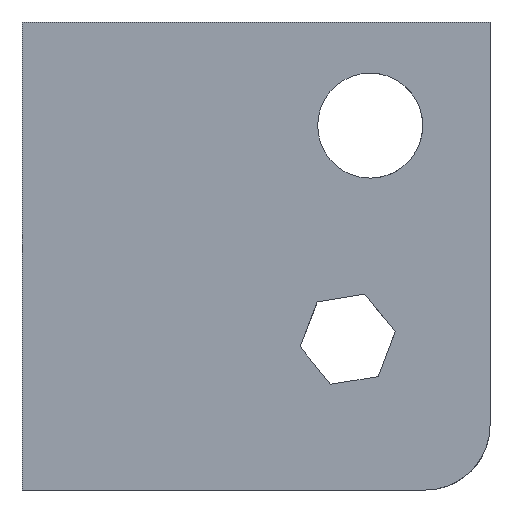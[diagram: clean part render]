
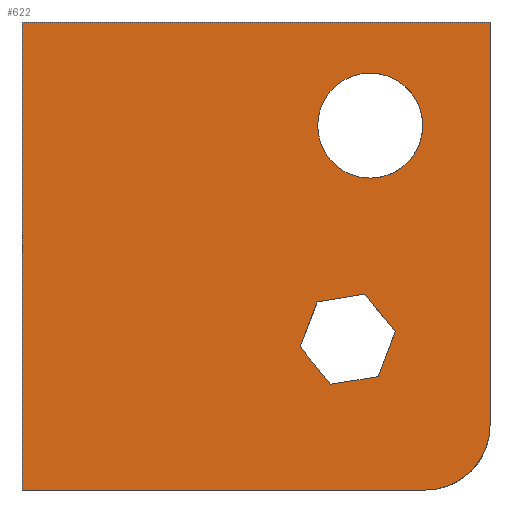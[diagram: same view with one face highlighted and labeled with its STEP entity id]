
A CAD part, left-side view. The second image highlights one B-rep face of the part: STEP entity #622.
In plain terms, the highlighted planar face has unit normal (-1, 0, 0).
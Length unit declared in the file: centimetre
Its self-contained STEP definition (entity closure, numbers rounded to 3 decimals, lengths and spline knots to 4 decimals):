
#11 = EDGE_CURVE ( 'NONE', #559, #451, #1103, .T. ) ;
#19 = CARTESIAN_POINT ( 'NONE',  ( 0., 138.3274, 138.3274 ) ) ;
#37 = DIRECTION ( 'NONE',  ( -1., 0., 0. ) ) ;
#71 = CARTESIAN_POINT ( 'NONE',  ( 0., 368.9695, 401.9783 ) ) ;
#72 = ORIENTED_EDGE ( 'NONE', *, *, #1035, .F. ) ;
#79 = ORIENTED_EDGE ( 'NONE', *, *, #208, .F. ) ;
#81 = DIRECTION ( 'NONE',  ( 1., 0., 0. ) ) ;
#102 = VECTOR ( 'NONE', #548, 100. ) ;
#103 = DIRECTION ( 'NONE',  ( 0., 0.355, -0.935 ) ) ;
#115 = CARTESIAN_POINT ( 'NONE',  ( 0., 340.4754, 225.9353 ) ) ;
#124 = AXIS2_PLACEMENT_3D ( 'NONE', #381, #182, #464 ) ;
#158 = VERTEX_POINT ( 'NONE', #428 ) ;
#162 = CARTESIAN_POINT ( 'NONE',  ( 0., 0., 138.3274 ) ) ;
#167 = EDGE_LOOP ( 'NONE', ( #311, #72, #79, #452, #1074, #666 ) ) ;
#168 = CARTESIAN_POINT ( 'NONE',  ( 0., 202.2648, 338.6335 ) ) ;
#172 = CARTESIAN_POINT ( 'NONE',  ( 0., 1000., 1000. ) ) ;
#175 = DIRECTION ( 'NONE',  ( 0., 0.632, 0.775 ) ) ;
#182 = DIRECTION ( 'NONE',  ( -1., 0., 0. ) ) ;
#183 = LINE ( 'NONE', #585, #1009 ) ;
#188 = AXIS2_PLACEMENT_3D ( 'NONE', #498, #81, #987 ) ;
#195 = DIRECTION ( 'NONE',  ( 0., -1., 0. ) ) ;
#203 = FACE_BOUND ( 'NONE', #167, .T. ) ;
#208 = EDGE_CURVE ( 'NONE', #753, #294, #682, .T. ) ;
#222 = EDGE_CURVE ( 'NONE', #1238, #1289, #569, .T. ) ;
#224 = CARTESIAN_POINT ( 'NONE',  ( 0., 202.2648, 338.6335 ) ) ;
#248 = VECTOR ( 'NONE', #598, 100. ) ;
#258 = EDGE_CURVE ( 'NONE', #158, #469, #433, .T. ) ;
#265 = VERTEX_POINT ( 'NONE', #876 ) ;
#267 = ORIENTED_EDGE ( 'NONE', *, *, #855, .F. ) ;
#294 = VERTEX_POINT ( 'NONE', #1295 ) ;
#311 = ORIENTED_EDGE ( 'NONE', *, *, #11, .F. ) ;
#319 = EDGE_LOOP ( 'NONE', ( #619, #267 ) ) ;
#321 = DIRECTION ( 'NONE',  ( -1., 0., 0. ) ) ;
#331 = VECTOR ( 'NONE', #363, 100. ) ;
#333 = CIRCLE ( 'NONE', #512, 138.3274 ) ;
#351 = EDGE_CURVE ( 'NONE', #456, #458, #1195, .T. ) ;
#363 = DIRECTION ( 'NONE',  ( 0., -0.355, 0.935 ) ) ;
#381 = CARTESIAN_POINT ( 'NONE',  ( 0., 255.9686, 778.6142 ) ) ;
#384 = DIRECTION ( 'NONE',  ( 0., 0.987, -0.16 ) ) ;
#388 = DIRECTION ( 'NONE',  ( 0., -0.987, 0.16 ) ) ;
#390 = ORIENTED_EDGE ( 'NONE', *, *, #798, .T. ) ;
#402 = CARTESIAN_POINT ( 'NONE',  ( 0., 405.5417, 305.7313 ) ) ;
#405 = ORIENTED_EDGE ( 'NONE', *, *, #587, .F. ) ;
#424 = VECTOR ( 'NONE', #103, 100. ) ;
#428 = CARTESIAN_POINT ( 'NONE',  ( 0., 255.9686, 890.8767 ) ) ;
#431 = LINE ( 'NONE', #737, #662 ) ;
#433 = CIRCLE ( 'NONE', #124, 112.2624 ) ;
#440 = VECTOR ( 'NONE', #388, 100. ) ;
#449 = VERTEX_POINT ( 'NONE', #1200 ) ;
#451 = VERTEX_POINT ( 'NONE', #1027 ) ;
#452 = ORIENTED_EDGE ( 'NONE', *, *, #1000, .F. ) ;
#456 = VERTEX_POINT ( 'NONE', #721 ) ;
#458 = VERTEX_POINT ( 'NONE', #1022 ) ;
#459 = EDGE_LOOP ( 'NONE', ( #723, #390, #405, #528, #955 ) ) ;
#464 = DIRECTION ( 'NONE',  ( 0., 0., 1. ) ) ;
#469 = VERTEX_POINT ( 'NONE', #1018 ) ;
#483 = DIRECTION ( 'NONE',  ( 0., 0., -1. ) ) ;
#491 = LINE ( 'NONE', #402, #248 ) ;
#498 = CARTESIAN_POINT ( 'NONE',  ( 0., 1000., 1000. ) ) ;
#506 = FACE_BOUND ( 'NONE', #319, .T. ) ;
#512 = AXIS2_PLACEMENT_3D ( 'NONE', #19, #37, #624 ) ;
#528 = ORIENTED_EDGE ( 'NONE', *, *, #1019, .F. ) ;
#548 = DIRECTION ( 'NONE',  ( 0., -1., 0. ) ) ;
#559 = VERTEX_POINT ( 'NONE', #71 ) ;
#569 = LINE ( 'NONE', #763, #440 ) ;
#585 = CARTESIAN_POINT ( 'NONE',  ( 0., 1000., 0. ) ) ;
#587 = EDGE_CURVE ( 'NONE', #449, #990, #431, .T. ) ;
#598 = DIRECTION ( 'NONE',  ( 0., -0.632, -0.775 ) ) ;
#619 = ORIENTED_EDGE ( 'NONE', *, *, #258, .F. ) ;
#622 = ADVANCED_FACE ( 'NONE', ( #506, #203, #1099 ), #996, .F. ) ;
#624 = DIRECTION ( 'NONE',  ( 0., 0., -1. ) ) ;
#662 = VECTOR ( 'NONE', #1128, 100. ) ;
#666 = ORIENTED_EDGE ( 'NONE', *, *, #1135, .F. ) ;
#682 = LINE ( 'NONE', #168, #1066 ) ;
#683 = EDGE_CURVE ( 'NONE', #458, #265, #183, .T. ) ;
#721 = CARTESIAN_POINT ( 'NONE',  ( 0., 1000., 1000. ) ) ;
#723 = ORIENTED_EDGE ( 'NONE', *, *, #683, .T. ) ;
#730 = AXIS2_PLACEMENT_3D ( 'NONE', #1132, #321, #732 ) ;
#732 = DIRECTION ( 'NONE',  ( 0., 0., 1. ) ) ;
#737 = CARTESIAN_POINT ( 'NONE',  ( 0., 0., 1000. ) ) ;
#753 = VERTEX_POINT ( 'NONE', #224 ) ;
#763 = CARTESIAN_POINT ( 'NONE',  ( 0., 340.4754, 225.9353 ) ) ;
#798 = EDGE_CURVE ( 'NONE', #265, #990, #333, .T. ) ;
#855 = EDGE_CURVE ( 'NONE', #469, #158, #1118, .T. ) ;
#876 = CARTESIAN_POINT ( 'NONE',  ( 0., 138.3274, 0. ) ) ;
#955 = ORIENTED_EDGE ( 'NONE', *, *, #351, .T. ) ;
#963 = LINE ( 'NONE', #1268, #331 ) ;
#987 = DIRECTION ( 'NONE',  ( 0., 0., -1. ) ) ;
#990 = VERTEX_POINT ( 'NONE', #162 ) ;
#996 = PLANE ( 'NONE',  #188 ) ;
#1000 = EDGE_CURVE ( 'NONE', #1289, #753, #963, .T. ) ;
#1009 = VECTOR ( 'NONE', #195, 100. ) ;
#1018 = CARTESIAN_POINT ( 'NONE',  ( 0., 255.9686, 666.3518 ) ) ;
#1019 = EDGE_CURVE ( 'NONE', #456, #449, #1171, .T. ) ;
#1022 = CARTESIAN_POINT ( 'NONE',  ( 0., 1000., 0. ) ) ;
#1027 = CARTESIAN_POINT ( 'NONE',  ( 0., 405.5417, 305.7313 ) ) ;
#1035 = EDGE_CURVE ( 'NONE', #294, #559, #1186, .T. ) ;
#1055 = CARTESIAN_POINT ( 'NONE',  ( 0., 1000., 1000. ) ) ;
#1066 = VECTOR ( 'NONE', #175, 100. ) ;
#1074 = ORIENTED_EDGE ( 'NONE', *, *, #222, .F. ) ;
#1086 = CARTESIAN_POINT ( 'NONE',  ( 0., 368.9695, 401.9783 ) ) ;
#1094 = CARTESIAN_POINT ( 'NONE',  ( 0., 267.3311, 418.4294 ) ) ;
#1099 = FACE_OUTER_BOUND ( 'NONE', #459, .T. ) ;
#1103 = LINE ( 'NONE', #1086, #424 ) ;
#1118 = CIRCLE ( 'NONE', #730, 112.2624 ) ;
#1128 = DIRECTION ( 'NONE',  ( 0., 0., -1. ) ) ;
#1132 = CARTESIAN_POINT ( 'NONE',  ( 0., 255.9686, 778.6142 ) ) ;
#1135 = EDGE_CURVE ( 'NONE', #451, #1238, #491, .T. ) ;
#1145 = VECTOR ( 'NONE', #483, 100. ) ;
#1171 = LINE ( 'NONE', #1055, #102 ) ;
#1186 = LINE ( 'NONE', #1094, #1296 ) ;
#1195 = LINE ( 'NONE', #172, #1145 ) ;
#1198 = CARTESIAN_POINT ( 'NONE',  ( 0., 238.8369, 242.3864 ) ) ;
#1200 = CARTESIAN_POINT ( 'NONE',  ( 0., 0., 1000. ) ) ;
#1238 = VERTEX_POINT ( 'NONE', #115 ) ;
#1268 = CARTESIAN_POINT ( 'NONE',  ( 0., 238.8369, 242.3864 ) ) ;
#1289 = VERTEX_POINT ( 'NONE', #1198 ) ;
#1295 = CARTESIAN_POINT ( 'NONE',  ( 0., 267.3311, 418.4294 ) ) ;
#1296 = VECTOR ( 'NONE', #384, 100. ) ;
